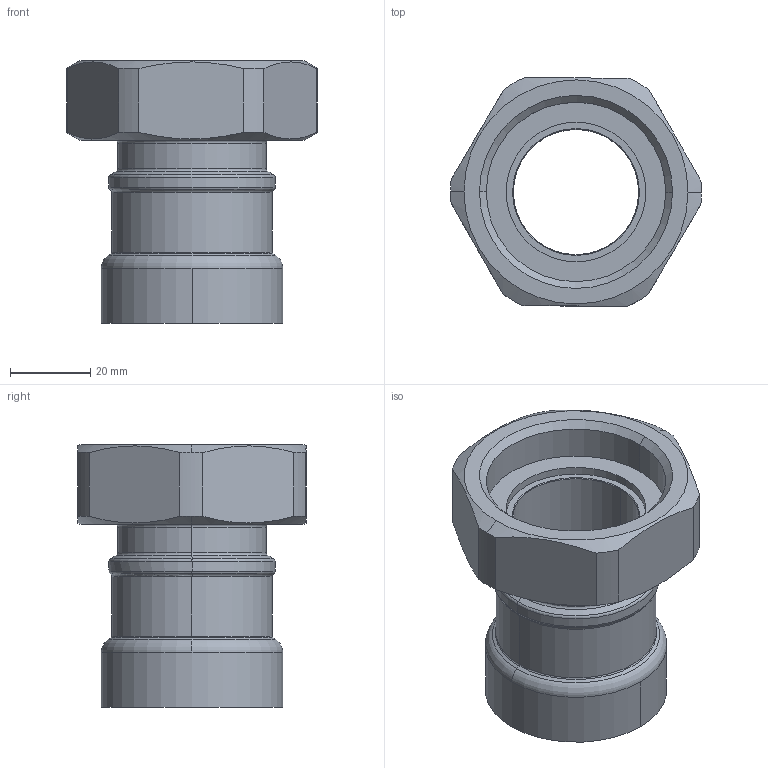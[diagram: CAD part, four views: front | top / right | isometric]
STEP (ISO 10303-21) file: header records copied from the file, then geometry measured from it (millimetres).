
FILE_DESCRIPTION(('Creo Elements/Direct Modeling STEP Export'),'2;1');
FILE_NAME('9446_1_G1-1-2.stp','2020-07-20T14:45:07',(''),(''),'PTC Creo Elements/Direct Modeling STEP processor for AP214 (Solid Model)','PTC Creo Elements/Direct Modeling 19.0C 15-Aug-2015 (C) Parametric Technology GmbH','');
FILE_SCHEMA(('AUTOMOTIVE_DESIGN { 1 0 10303 214 1 1 1 1 }'));
Length unit declared in the file: millimetre
Products named in the file (2): 9446_1_G1-1-2
Assembly tree (1 placements, depth 2):
  9446_1_G1-1-2
    9446_1_G1-1-2
Bounding box: 62.7 x 57.18 x 65.6 mm (x, y, z)
Volume: 52055.9 mm3; surface area: 21393.9 mm2
Topology: 1 solids, 1 shells, 63 faces, 144 edges, 86 vertices
Faces by surface type: cylinder 22, cone 16, torus 14, plane 11
Entity records: 2621 total; most frequent: CARTESIAN_POINT 1229, ORIENTED_EDGE 288, DIRECTION 274, EDGE_CURVE 144, AXIS2_PLACEMENT_3D 115, VERTEX_POINT 86, EDGE_LOOP 68, FACE_OUTER_BOUND 63
